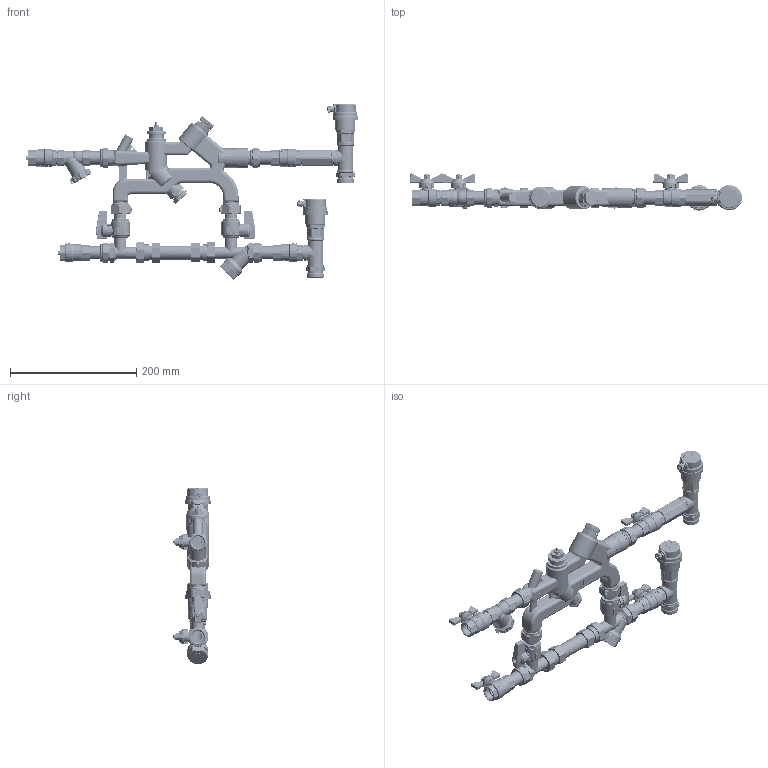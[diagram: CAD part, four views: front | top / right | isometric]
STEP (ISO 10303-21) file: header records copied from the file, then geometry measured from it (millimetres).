
FILE_DESCRIPTION(('TFLEX Exchange Step'),'2;1');
FILE_NAME('VT.CM.0000.R.RA.stp', '2023-10-24T19:38:12+03:00',('denis'),('Unknown organisation'),'TFLEX Exchange 2023.0','T-FLEX CAD','Unknown authorisation');
FILE_SCHEMA( ('AUTOMOTIVE_DESIGN { 1 0 10303 214 1 1 1 1 }') );
Length unit declared in the file: millimetre
Products named in the file (1): VT.CM.0000.R.RA
Bounding box: 525.53 x 58.67 x 277.67 mm (x, y, z)
Volume: 848005.3 mm3; surface area: 323197 mm2
Topology: 85 solids, 87 shells, 10409 faces, 26730 edges, 16899 vertices
Faces by surface type: cylinder 3567, plane 2923, bspline 2409, torus 944, cone 398, sphere 168
Full cylindrical faces by diameter (mm): 1.5 x3, 2 x2, 3 x1, 3.2 x1, 3.464 x2, 4 x1, 5 x2, 6 x8, 7.953 x2, 8 x7, 8.9 x4, 8.917 x1, 9 x2, 9.332 x2, 10 x3, 11 x1, 11.3 x1, 11.5 x1, 12 x6, 12.5 x2, 13.239 x1, 13.5 x7, 14 x5, 14.5 x4, 15 x17, 15.729 x4, 16 x10, 16.6 x1, 17 x6, 17.2 x2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
Entity records: 467260 total; most frequent: CARTESIAN_POINT 244354, ORIENTED_EDGE 53204, DIRECTION 34995, EDGE_CURVE 26602, VERTEX_POINT 16891, AXIS2_PLACEMENT_3D 13069, B_SPLINE_CURVE_WITH_KNOTS 12062, EDGE_LOOP 11059
